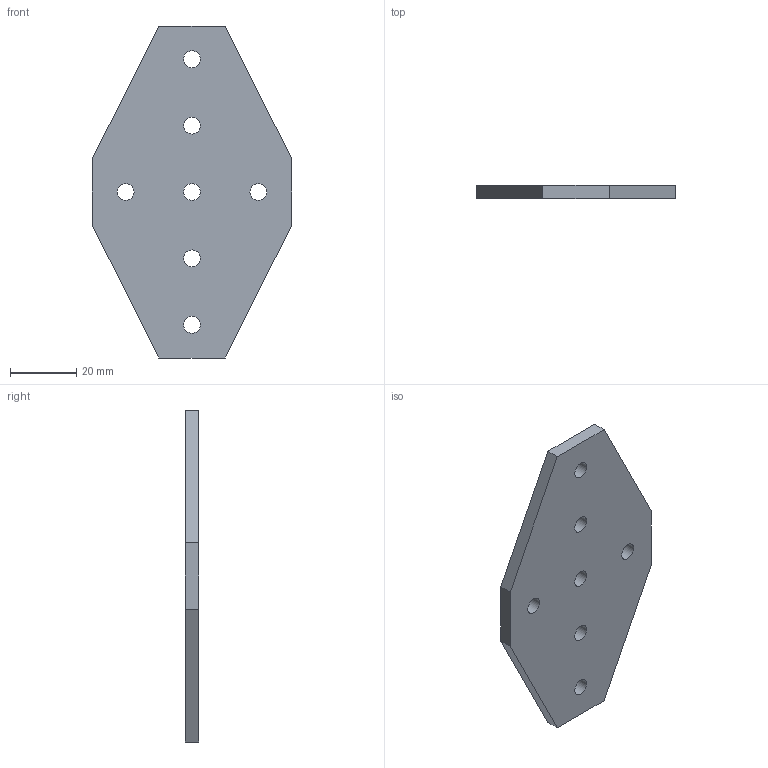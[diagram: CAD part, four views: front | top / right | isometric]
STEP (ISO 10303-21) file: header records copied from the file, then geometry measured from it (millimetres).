
FILE_DESCRIPTION(('FreeCAD Model'),'2;1');
FILE_NAME('Open CASCADE Shape Model','2021-05-04T09:51:13',('Author'),( ''),'Open CASCADE STEP processor 7.5','FreeCAD','Unknown');
FILE_SCHEMA(('AUTOMOTIVE_DESIGN { 1 0 10303 214 1 1 1 1 }'));
Length unit declared in the file: millimetre
Products named in the file (1): Joining Plate Cross v1
Bounding box: 60 x 4 x 100 mm (x, y, z)
Volume: 17028 mm3; surface area: 9998.2 mm2
Topology: 1 solids, 1 shells, 17 faces, 51 edges, 36 vertices
Faces by surface type: plane 10, cylinder 7
Full cylindrical faces by diameter (mm): 5.1 x7
Entity records: 1366 total; most frequent: CARTESIAN_POINT 327, DIRECTION 189, LINE 113, VECTOR 113, ORIENTED_EDGE 102, PCURVE 102, DEFINITIONAL_REPRESENTATION 102, EDGE_CURVE 51
